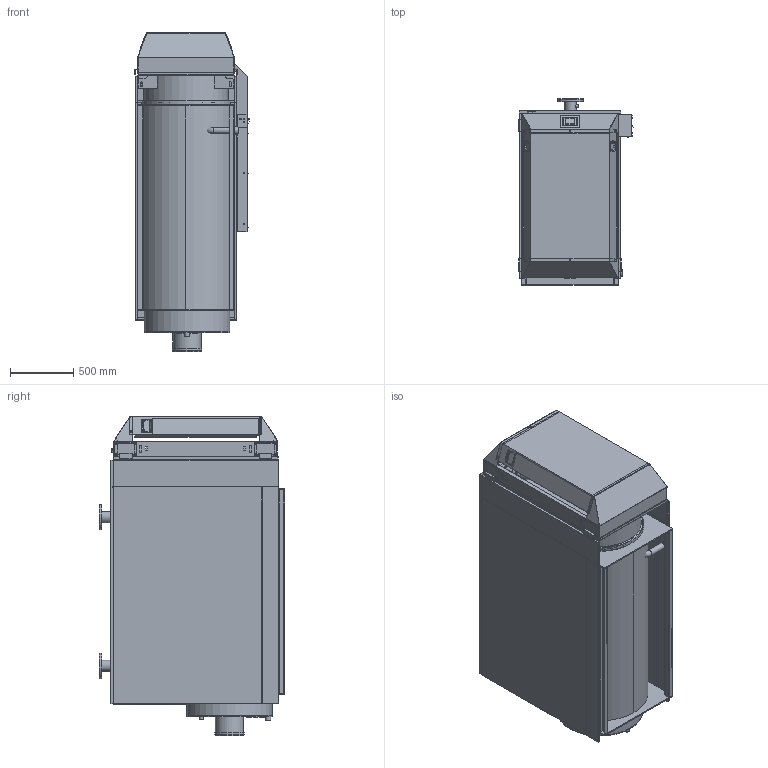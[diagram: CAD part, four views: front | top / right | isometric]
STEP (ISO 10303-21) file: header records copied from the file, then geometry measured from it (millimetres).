
FILE_DESCRIPTION (( 'STEP AP203' ), '1' );
FILE_NAME ('GT3 300.STEP', '2019-03-11T13:51:59', ( '' ), ( '' ), 'SwSTEP 2.0', 'SolidWorks 2019', '' );
FILE_SCHEMA (( 'CONFIG_CONTROL_DESIGN' ));
Length unit declared in the file: millimetre
Products named in the file (1): GT3 300
Bounding box: 900.78 x 1463.5 x 2513.2 mm (x, y, z)
Surface area: 32109115.4 mm2 (no closed solid volume)
Topology: 0 solids, 230 shells, 873 faces, 4774 edges, 4018 vertices
Faces by surface type: plane 445, cylinder 271, torus 74, sphere 44, bspline 31, cone 8
Full cylindrical faces by diameter (mm): 3.3 x5, 4 x1, 4.5 x1, 5 x4, 8 x8, 8.9 x1, 9 x2, 12 x2, 14 x1, 16 x2, 18 x9, 18.8 x2, 20 x1, 25 x1, 26.4 x2, 27 x1, 30 x2, 30.4 x1, 37 x1, 39.5 x1, 48 x2, 48.1 x2, 48.2 x2, 48.3 x2, 53.1 x1, 55 x3, 57 x1, 60 x2, 60.3 x1, 80.9 x2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
Entity records: 49005 total; most frequent: CARTESIAN_POINT 13023, DIRECTION 7292, ORIENTED_EDGE 5443, EDGE_CURVE 4601, VERTEX_POINT 3980, VECTOR 2840, LINE 2840, AXIS2_PLACEMENT_3D 2226
